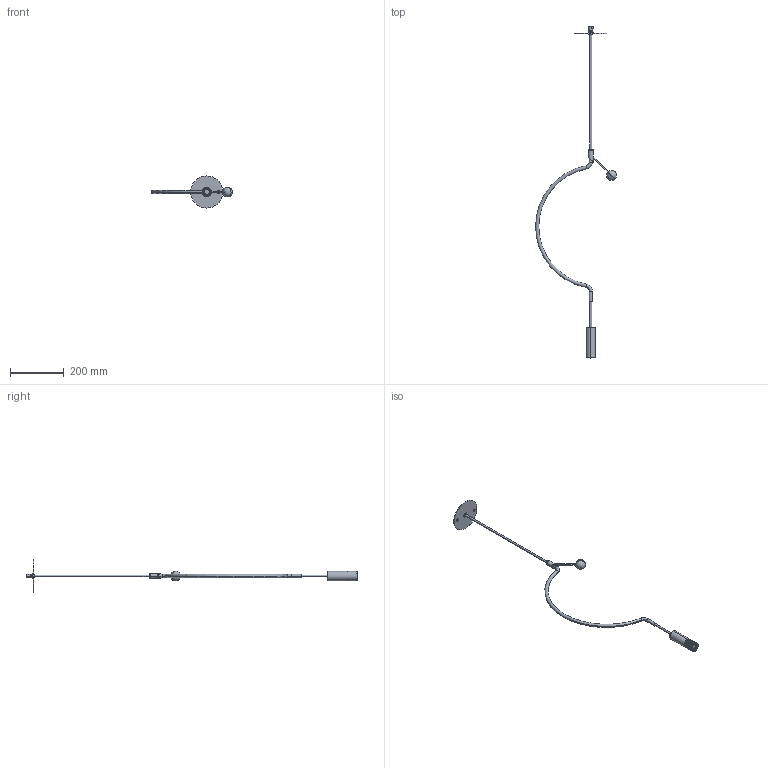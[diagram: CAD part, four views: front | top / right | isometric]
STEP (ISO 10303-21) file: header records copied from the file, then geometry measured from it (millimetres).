
FILE_DESCRIPTION (( 'STEP AP203' ), '1' );
FILE_NAME ('PENDENTE LIAISON INCASSO P-PER 3D.STEP', '2024-05-29T10:02:38', ( '' ), ( '' ), 'SwSTEP 2.0', 'SolidWorks 2024', '' );
FILE_SCHEMA (( 'CONFIG_CONTROL_DESIGN' ));
Length unit declared in the file: millimetre
Products named in the file (15): 1.0A.AXO01.LS01.F1_rev_A; 1.0A.AXO01.LS01.S1; Rondelle Tornite Sacla_RONDELLA Ø25 F.C. M10X1 - AVS RO25X2; PENDENTE LIAISON INCASSO P-PER 3D; 1.0C.AXO01.LS01.12_rev_A; 1.0A.AXO01.LS01.F2; 1.0C.AXO01.LS01.03_rev_A; 1.0C.AXO01.LS01.06_rev_A; 1.0C.AXO01.LS01.02; WSASS-000000038-00-PER 3D; 1.0C.AXO01.LS01.01; 1.0C.AXO01.LS01.09_rev_B; 1.0C.AXO01.LS01.50; 1.0C.AXO01.LS01.08_Standard; 1.0C.AXO01.LS01.13
Assembly tree (14 placements, depth 4):
  PENDENTE LIAISON INCASSO P-PER 3D
    1.0A.AXO01.LS01.F2
      1.0C.AXO01.LS01.01
      1.0C.AXO01.LS01.50
      1.0A.AXO01.LS01.S1
        1.0C.AXO01.LS01.12_rev_A
        1.0C.AXO01.LS01.03_rev_A
      1.0A.AXO01.LS01.F1_rev_A
        Rondelle Tornite Sacla_RONDELLA Ø25 F.C. M10X1 - AVS RO25X2
        1.0C.AXO01.LS01.08_Standard
        1.0C.AXO01.LS01.09_rev_B
        1.0C.AXO01.LS01.06_rev_A
        1.0C.AXO01.LS01.13
    1.0C.AXO01.LS01.02
    WSASS-000000038-00-PER 3D
Bounding box: 302.03 x 1239.27 x 120 mm (x, y, z)
Volume: 178826.4 mm3; surface area: 152201.8 mm2
Topology: 20 solids, 20 shells, 467 faces, 1221 edges, 733 vertices
Faces by surface type: plane 154, cylinder 151, cone 72, bspline 70, torus 18, sphere 2
Entity records: 21735 total; most frequent: CARTESIAN_POINT 9611, ORIENTED_EDGE 2300, DIRECTION 2051, EDGE_CURVE 1150, AXIS2_PLACEMENT_3D 778, VERTEX_POINT 730, EDGE_LOOP 510, LINE 495
